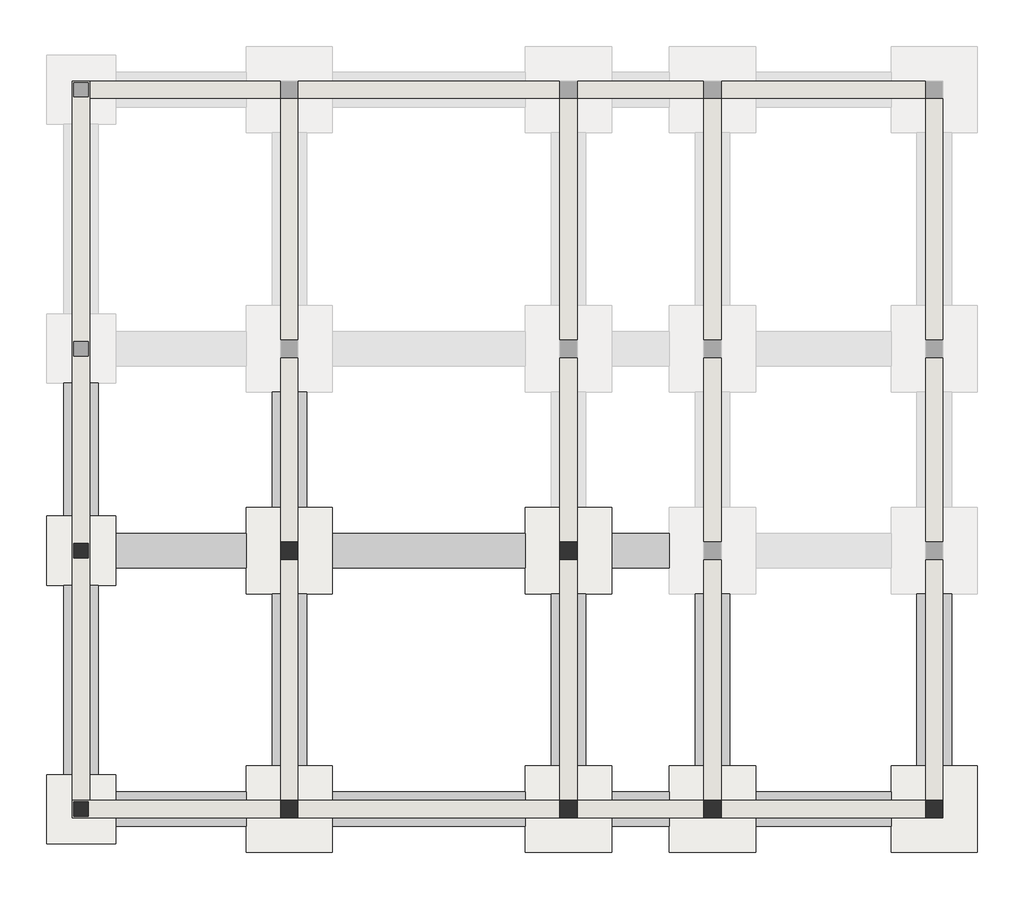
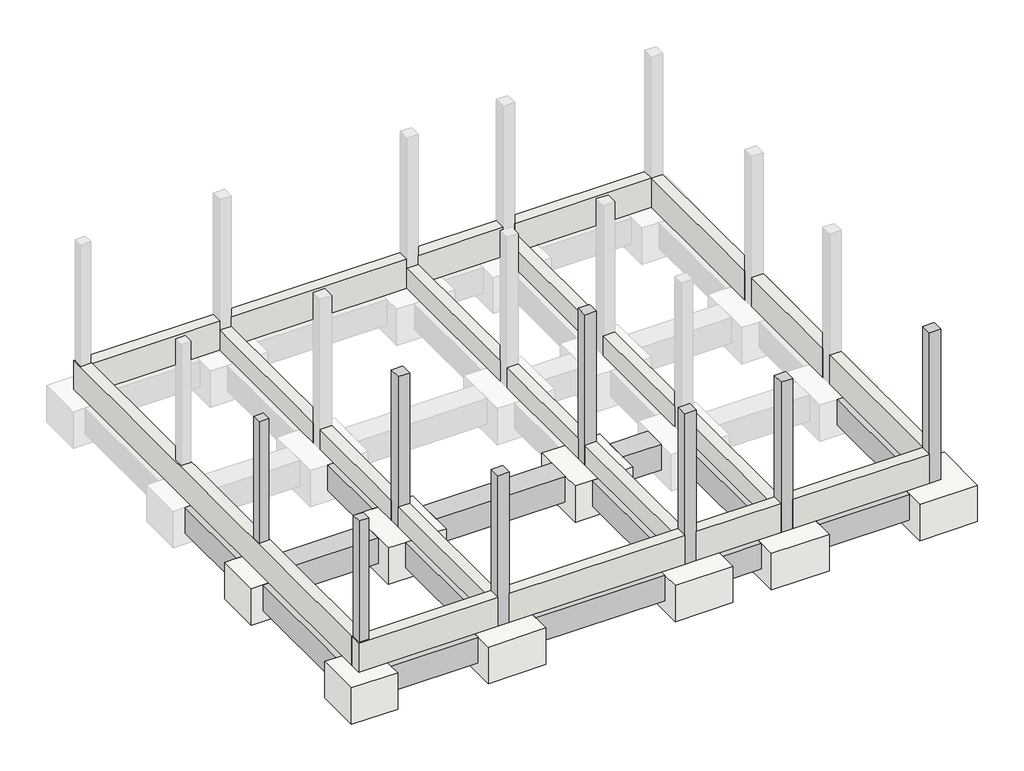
# One storey, part 1 of 2: 14 beams, 8 columns, 8 slabs, 7 walls.
"""IFC4 building model written with IfcOpenShell, lengths in millimetres."""

from ifc_helpers import new_model, si_unit, frame, origin, place, context, project, spatial, polyline, outline, extrude, faceted_brep, element, save

model = new_model("IFC4")

# Units and contexts
model_context = context("Model", 3, world=origin())
ifc_project = project(units=[si_unit("LENGTHUNIT", "METRE", prefix="MILLI")], contexts=[model_context])

# Site, building, storey
site = spatial("IfcSite", under=ifc_project)
building = spatial("IfcBuilding", under=site)
storey = spatial("IfcBuildingStorey", under=building, Name="00.ES.CIMENTACIÓN", Elevation=-680.0)

# Beams
placement = place(None, origin())
element("IfcBeam", 1, ObjectType="Hormigón-Viga rectangular : 600 x 700 mm", at=placement, inside=storey, context=model_context, shape_type="SweptSolid", body=[
    extrude(outline(polyline([(12315.0, 300.0), (12315.0, 900.0), (14665.0, 900.0), (14665.0, 300.0), (12315.0, 300.0)])), frame((0.0, 0.0, -1380.0), z_axis=(0.0, 0.0, 1.0), x_axis=(1.0, 0.0, 0.0)), (0.0, 0.0, 1.0), 700.0),
])
element("IfcBeam", 2, ObjectType="Hormigón-Viga rectangular : 600 x 700 mm", at=placement, inside=storey, context=model_context, shape_type="SweptSolid", body=[
    extrude(outline(polyline([(9815.0, 300.0), (9815.0, 900.0), (10815.0, 900.0), (10815.0, 300.0), (9815.0, 300.0)])), frame((0.0, 0.0, -1380.0), z_axis=(0.0, 0.0, 1.0), x_axis=(1.0, 0.0, 0.0)), (0.0, 0.0, 1.0), 700.0),
])
element("IfcBeam", 3, ObjectType="Hormigón-Viga rectangular : 600 x 700 mm", at=placement, inside=storey, context=model_context, shape_type="SweptSolid", body=[
    extrude(outline(polyline([(4965.0, 300.0), (4965.0, 900.0), (8315.0, 900.0), (8315.0, 300.0), (4965.0, 300.0)])), frame((0.0, 0.0, -1380.0), z_axis=(0.0, 0.0, 1.0), x_axis=(1.0, 0.0, 0.0)), (0.0, 0.0, 1.0), 700.0),
])
element("IfcBeam", 4, ObjectType="Hormigón-Viga rectangular : 600 x 700 mm", at=placement, inside=storey, context=model_context, shape_type="SweptSolid", body=[
    extrude(outline(polyline([(3465.0, 900.0), (3465.0, 300.0), (1200.0, 300.0), (1200.0, 900.0), (3465.0, 900.0)])), frame((0.0, 0.0, -1380.0), z_axis=(0.0, 0.0, 1.0), x_axis=(1.0, 0.0, 0.0)), (0.0, 0.0, 1.0), 700.0),
])
element("IfcBeam", 5, ObjectType="Hormigón-Viga rectangular : 600 x 700 mm", at=placement, inside=storey, context=model_context, shape_type="SweptSolid", body=[
    extrude(outline(polyline([(300.0, 4490.0610844), (900.0, 4490.0610844), (900.0, 1200.0), (300.0, 1200.0), (300.0, 4490.0610844)])), frame((0.0, 0.0, -1380.0), z_axis=(0.0, 0.0, 1.0), x_axis=(1.0, 0.0, 0.0)), (0.0, 0.0, 1.0), 700.0),
])
element("IfcBeam", 6, ObjectType="Hormigón-Viga rectangular : 600 x 700 mm", at=placement, inside=storey, context=model_context, shape_type="SweptSolid", body=[
    extrude(outline(polyline([(300.0, 8000.0), (900.0, 8000.0), (900.0, 5690.0610844), (300.0, 5690.0610844), (300.0, 8000.0)])), frame((0.0, 0.0, -1380.0), z_axis=(0.0, 0.0, 1.0), x_axis=(1.0, 0.0, 0.0)), (0.0, 0.0, 1.0), 700.0),
])
element("IfcBeam", 7, ObjectType="Hormigón-Viga rectangular : 600 x 700 mm", at=placement, inside=storey, context=model_context, shape_type="SweptSolid", body=[
    extrude(outline(polyline([(9815.0, 4790.0610844), (9815.0, 5390.0610844), (10815.0, 5390.0610844), (10815.0, 4790.0610844), (9815.0, 4790.0610844)])), frame((0.0, 0.0, -1380.0), z_axis=(0.0, 0.0, 1.0), x_axis=(1.0, 0.0, 0.0)), (0.0, 0.0, 1.0), 700.0),
])
element("IfcBeam", 8, ObjectType="Hormigón-Viga rectangular : 600 x 700 mm", at=placement, inside=storey, context=model_context, shape_type="SweptSolid", body=[
    extrude(outline(polyline([(4965.0, 4790.0610844), (4965.0, 5390.0610844), (8315.0, 5390.0610844), (8315.0, 4790.0610844), (4965.0, 4790.0610844)])), frame((0.0, 0.0, -1380.0), z_axis=(0.0, 0.0, 1.0), x_axis=(1.0, 0.0, 0.0)), (0.0, 0.0, 1.0), 700.0),
])
element("IfcBeam", 9, ObjectType="Hormigón-Viga rectangular : 600 x 700 mm", at=placement, inside=storey, context=model_context, shape_type="SweptSolid", body=[
    extrude(outline(polyline([(3465.0, 5390.0610844), (3465.0, 4790.0610844), (1200.0, 4790.0610844), (1200.0, 5390.0610844), (3465.0, 5390.0610844)])), frame((0.0, 0.0, -1380.0), z_axis=(0.0, 0.0, 1.0), x_axis=(1.0, 0.0, 0.0)), (0.0, 0.0, 1.0), 700.0),
])
element("IfcBeam", 10, ObjectType="Hormigón-Viga rectangular : 600 x 700 mm", at=placement, inside=storey, context=model_context, shape_type="SweptSolid", body=[
    extrude(outline(polyline([(3915.0, 4340.0610844), (4515.0, 4340.0610844), (4515.0, 1350.0), (3915.0, 1350.0), (3915.0, 4340.0610844)])), frame((0.0, 0.0, -1380.0), z_axis=(0.0, 0.0, 1.0), x_axis=(1.0, 0.0, 0.0)), (0.0, 0.0, 1.0), 700.0),
])
element("IfcBeam", 11, ObjectType="Hormigón-Viga rectangular : 600 x 700 mm", at=placement, inside=storey, context=model_context, shape_type="SweptSolid", body=[
    extrude(outline(polyline([(3915.0, 7850.0), (4515.0, 7850.0), (4515.0, 5840.0610844), (3915.0, 5840.0610844), (3915.0, 7850.0)])), frame((0.0, 0.0, -1380.0), z_axis=(0.0, 0.0, 1.0), x_axis=(1.0, 0.0, 0.0)), (0.0, 0.0, 1.0), 700.0),
])
element("IfcBeam", 12, ObjectType="Hormigón-Viga rectangular : 600 x 700 mm", at=placement, inside=storey, context=model_context, shape_type="SweptSolid", body=[
    extrude(outline(polyline([(8765.0, 4340.0610844), (9365.0, 4340.0610844), (9365.0, 1350.0), (8765.0, 1350.0), (8765.0, 4340.0610844)])), frame((0.0, 0.0, -1380.0), z_axis=(0.0, 0.0, 1.0), x_axis=(1.0, 0.0, 0.0)), (0.0, 0.0, 1.0), 700.0),
])
element("IfcBeam", 13, ObjectType="Hormigón-Viga rectangular : 600 x 700 mm", at=placement, inside=storey, context=model_context, shape_type="SweptSolid", body=[
    extrude(outline(polyline([(11265.0, 4340.0610844), (11865.0, 4340.0610844), (11865.0, 1350.0), (11265.0, 1350.0), (11265.0, 4340.0610844)])), frame((0.0, 0.0, -1380.0), z_axis=(0.0, 0.0, 1.0), x_axis=(1.0, 0.0, 0.0)), (0.0, 0.0, 1.0), 700.0),
])
element("IfcBeam", 14, ObjectType="Hormigón-Viga rectangular : 600 x 700 mm", at=placement, inside=storey, context=model_context, shape_type="SweptSolid", body=[
    extrude(outline(polyline([(15115.0, 4340.0610844), (15715.0, 4340.0610844), (15715.0, 1350.0), (15115.0, 1350.0), (15115.0, 4340.0610844)])), frame((0.0, 0.0, -1380.0), z_axis=(0.0, 0.0, 1.0), x_axis=(1.0, 0.0, 0.0)), (0.0, 0.0, 1.0), 700.0),
])

# Columns
element("IfcColumn", 15, ObjectType="Pilar rectangular hormigón : 250 x 250 mm", at=placement, inside=storey, context=model_context, shape_type="Brep", body=[
    faceted_brep([(725.0, 5215.0610844, 3450.0), (475.0, 5215.0610844, 3450.0), (475.0, 4965.0610844, 3450.0), (725.0, 4965.0610844, 3450.0), (725.0, 5215.0610844, -680.0), (725.0, 4965.0610844, -680.0), (475.0, 4965.0610844, -680.0), (475.0, 5215.0610844, -680.0), (725.0, 5215.0610844, 120.0), (475.0, 5215.0610844, 120.0), (475.0, 4965.0610844, 120.0), (725.0, 4965.0610844, 120.0)], [[[0, 1, 2, 3]], [[4, 5, 6, 7]], [[1, 0, 8, 4, 7, 9]], [[2, 1, 9, 7, 6, 10]], [[3, 2, 10, 6, 5, 11]], [[0, 3, 11, 5, 4, 8]]]),
])
element("IfcColumn", 16, ObjectType="Pilar rectangular hormigón : 250 x 250 mm", at=placement, inside=storey, context=model_context, shape_type="SweptSolid", body=[
    extrude(outline(polyline([(725.0, 725.0), (725.0, 475.0), (475.0, 475.0), (475.0, 725.0), (725.0, 725.0)])), frame((0.0, 0.0, -680.0), z_axis=(0.0, 0.0, 1.0), x_axis=(1.0, 0.0, 0.0)), (0.0, 0.0, 1.0), 4130.0),
])
element("IfcColumn", 17, ObjectType="Pilar rectangular hormigón : 300 x 300 mm", at=placement, inside=storey, context=model_context, shape_type="Brep", body=[
    faceted_brep([(4365.0, 5240.0610844, 3450.0), (4065.0, 5240.0610844, 3450.0), (4065.0, 4940.0610844, 3450.0), (4365.0, 4940.0610844, 3450.0), (4365.0, 5240.0610844, -680.0), (4365.0, 4940.0610844, -680.0), (4065.0, 4940.0610844, -680.0), (4065.0, 5240.0610844, -680.0), (4365.0, 5240.0610844, 3050.0), (4365.0, 5240.0610844, 120.0), (4365.0, 5240.0610844, -130.0), (4065.0, 5240.0610844, -130.0), (4065.0, 5240.0610844, 120.0), (4065.0, 5240.0610844, 3050.0), (4065.0, 4940.0610844, -130.0), (4065.0, 4940.0610844, 120.0), (4065.0, 4940.0610844, 3050.0), (4365.0, 4940.0610844, -130.0), (4365.0, 4940.0610844, 120.0), (4365.0, 4940.0610844, 3050.0)], [[[0, 1, 2, 3]], [[4, 5, 6, 7]], [[1, 0, 8, 9, 10, 4, 7, 11, 12, 13]], [[2, 1, 13, 12, 11, 7, 6, 14, 15, 16]], [[3, 2, 16, 15, 14, 6, 5, 17, 18, 19]], [[0, 3, 19, 18, 17, 5, 4, 10, 9, 8]]]),
])
element("IfcColumn", 18, ObjectType="Pilar rectangular hormigón : 300 x 300 mm", at=placement, inside=storey, context=model_context, shape_type="Brep", body=[
    faceted_brep([(9215.0, 5240.0610844, 3450.0), (8915.0, 5240.0610844, 3450.0), (8915.0, 4940.0610844, 3450.0), (9215.0, 4940.0610844, 3450.0), (9215.0, 5240.0610844, -680.0), (9215.0, 4940.0610844, -680.0), (8915.0, 4940.0610844, -680.0), (8915.0, 5240.0610844, -680.0), (9215.0, 5240.0610844, 3050.0), (9215.0, 5240.0610844, 120.0), (9215.0, 5240.0610844, -130.0), (8915.0, 5240.0610844, -130.0), (8915.0, 4940.0610844, -130.0), (9215.0, 4940.0610844, -130.0), (9215.0, 4940.0610844, 120.0), (9215.0, 4940.0610844, 3050.0)], [[[0, 1, 2, 3]], [[4, 5, 6, 7]], [[1, 0, 8, 9, 10, 4, 7, 11]], [[2, 1, 11, 7, 6, 12]], [[3, 2, 12, 6, 5, 13, 14, 15]], [[0, 3, 15, 14, 13, 5, 4, 10, 9, 8]]]),
])
element("IfcColumn", 19, ObjectType="Pilar rectangular hormigón : 300 x 300 mm", at=placement, inside=storey, context=model_context, shape_type="Brep", body=[
    faceted_brep([(4365.0, 750.0, 3450.0), (4065.0, 750.0, 3450.0), (4065.0, 450.0, 3450.0), (4365.0, 450.0, 3450.0), (4365.0, 750.0, -680.0), (4365.0, 450.0, -680.0), (4065.0, 450.0, -680.0), (4065.0, 750.0, -680.0), (4365.0, 750.0, 120.0), (4065.0, 750.0, 120.0), (4065.0, 450.0, 120.0), (4365.0, 450.0, 120.0)], [[[0, 1, 2, 3]], [[4, 5, 6, 7]], [[1, 0, 8, 4, 7, 9]], [[2, 1, 9, 7, 6, 10]], [[3, 2, 10, 6, 5, 11]], [[0, 3, 11, 5, 4, 8]]]),
])
element("IfcColumn", 20, ObjectType="Pilar rectangular hormigón : 300 x 300 mm", at=placement, inside=storey, context=model_context, shape_type="Brep", body=[
    faceted_brep([(9215.0, 750.0, 3450.0), (8915.0, 750.0, 3450.0), (8915.0, 450.0, 3450.0), (9215.0, 450.0, 3450.0), (9215.0, 750.0, -680.0), (9215.0, 450.0, -680.0), (8915.0, 450.0, -680.0), (8915.0, 750.0, -680.0), (9215.0, 750.0, 120.0), (8915.0, 750.0, 120.0), (8915.0, 450.0, 120.0), (9215.0, 450.0, 120.0)], [[[0, 1, 2, 3]], [[4, 5, 6, 7]], [[1, 0, 8, 4, 7, 9]], [[2, 1, 9, 7, 6, 10]], [[3, 2, 10, 6, 5, 11]], [[0, 3, 11, 5, 4, 8]]]),
])
element("IfcColumn", 21, ObjectType="Pilar rectangular hormigón : 300 x 300 mm", at=placement, inside=storey, context=model_context, shape_type="Brep", body=[
    faceted_brep([(11715.0, 750.0, 3450.0), (11415.0, 750.0, 3450.0), (11415.0, 450.0, 3450.0), (11715.0, 450.0, 3450.0), (11715.0, 750.0, -680.0), (11715.0, 450.0, -680.0), (11415.0, 450.0, -680.0), (11415.0, 750.0, -680.0), (11715.0, 750.0, 3200.0), (11715.0, 750.0, 120.0), (11415.0, 750.0, 120.0), (11415.0, 450.0, 120.0), (11715.0, 450.0, 120.0)], [[[0, 1, 2, 3]], [[4, 5, 6, 7]], [[1, 0, 8, 9, 4, 7, 10]], [[2, 1, 10, 7, 6, 11]], [[3, 2, 11, 6, 5, 12]], [[0, 3, 12, 5, 4, 9, 8]]]),
])
element("IfcColumn", 22, ObjectType="Pilar rectangular hormigón : 300 x 300 mm", at=placement, inside=storey, context=model_context, shape_type="Brep", body=[
    faceted_brep([(15565.0, 750.0, 3450.0), (15265.0, 750.0, 3450.0), (15265.0, 450.0, 3450.0), (15565.0, 450.0, 3450.0), (15565.0, 750.0, -680.0), (15565.0, 450.0, -680.0), (15265.0, 450.0, -680.0), (15265.0, 750.0, -680.0), (15565.0, 750.0, 120.0), (15265.0, 750.0, 120.0), (15265.0, 750.0, 3200.0), (15265.0, 450.0, 120.0), (15565.0, 450.0, 120.0)], [[[0, 1, 2, 3]], [[4, 5, 6, 7]], [[1, 0, 8, 4, 7, 9, 10]], [[2, 1, 10, 9, 7, 6, 11]], [[3, 2, 11, 6, 5, 12]], [[0, 3, 12, 5, 4, 8]]]),
])

# Slabs
element("IfcSlab", 23, ObjectType="Zapata-Rectangular : 1200 x 1200 x 1000 mm", at=placement, inside=storey, context=model_context, shape_type="Brep", body=[
    faceted_brep([(1200.0, 5690.0610844, -680.0), (900.0, 5690.0610844, -680.0), (300.0, 5690.0610844, -680.0), (0.0, 5690.0610844, -680.0), (0.0, 4490.0610844, -680.0), (300.0, 4490.0610844, -680.0), (900.0, 4490.0610844, -680.0), (1200.0, 4490.0610844, -680.0), (1200.0, 4790.0610844, -680.0), (1200.0, 5390.0610844, -680.0), (1200.0, 5690.0610844, -1680.0), (1200.0, 4490.0610844, -1680.0), (0.0, 4490.0610844, -1680.0), (0.0, 5690.0610844, -1680.0)], [[[0, 1, 2, 3, 4, 5, 6, 7, 8, 9]], [[10, 11, 12, 13]], [[3, 2, 1, 0, 10, 13]], [[4, 3, 13, 12]], [[7, 6, 5, 4, 12, 11]], [[0, 9, 8, 7, 11, 10]]]),
])
element("IfcSlab", 24, ObjectType="Zapata-Rectangular : 1200 x 1200 x 1000 mm", at=placement, inside=storey, context=model_context, shape_type="Brep", body=[
    faceted_brep([(1200.0, 1200.0, -680.0), (900.0, 1200.0, -680.0), (300.0, 1200.0, -680.0), (0.0, 1200.0, -680.0), (0.0, 0.0, -680.0), (1200.0, 0.0, -680.0), (1200.0, 300.0, -680.0), (1200.0, 900.0, -680.0), (1200.0, 1200.0, -1680.0), (1200.0, 0.0, -1680.0), (0.0, 0.0, -1680.0), (0.0, 1200.0, -1680.0)], [[[0, 1, 2, 3, 4, 5, 6, 7]], [[8, 9, 10, 11]], [[3, 2, 1, 0, 8, 11]], [[4, 3, 11, 10]], [[5, 4, 10, 9]], [[0, 7, 6, 5, 9, 8]]]),
])
element("IfcSlab", 25, ObjectType="Zapata-Rectangular : 1500 x 1500 x 1000 mm", at=placement, inside=storey, context=model_context, shape_type="Brep", body=[
    faceted_brep([(4965.0, 5840.0610844, -680.0), (4515.0, 5840.0610844, -680.0), (3915.0, 5840.0610844, -680.0), (3465.0, 5840.0610844, -680.0), (3465.0, 5390.0610844, -680.0), (3465.0, 4790.0610844, -680.0), (3465.0, 4340.0610844, -680.0), (3915.0, 4340.0610844, -680.0), (4515.0, 4340.0610844, -680.0), (4965.0, 4340.0610844, -680.0), (4965.0, 4790.0610844, -680.0), (4965.0, 5390.0610844, -680.0), (4965.0, 5840.0610844, -1680.0), (4965.0, 4340.0610844, -1680.0), (3465.0, 4340.0610844, -1680.0), (3465.0, 5840.0610844, -1680.0)], [[[0, 1, 2, 3, 4, 5, 6, 7, 8, 9, 10, 11]], [[12, 13, 14, 15]], [[3, 2, 1, 0, 12, 15]], [[6, 5, 4, 3, 15, 14]], [[9, 8, 7, 6, 14, 13]], [[0, 11, 10, 9, 13, 12]]]),
])
element("IfcSlab", 26, ObjectType="Zapata-Rectangular : 1500 x 1500 x 1000 mm", at=placement, inside=storey, context=model_context, shape_type="Brep", body=[
    faceted_brep([(9815.0, 5840.0610844, -680.0), (9365.0, 5840.0610844, -680.0), (8765.0, 5840.0610844, -680.0), (8315.0, 5840.0610844, -680.0), (8315.0, 5390.0610844, -680.0), (8315.0, 4790.0610844, -680.0), (8315.0, 4340.0610844, -680.0), (8765.0, 4340.0610844, -680.0), (9365.0, 4340.0610844, -680.0), (9815.0, 4340.0610844, -680.0), (9815.0, 4790.0610844, -680.0), (9815.0, 5390.0610844, -680.0), (9815.0, 5840.0610844, -1680.0), (9815.0, 4340.0610844, -1680.0), (8315.0, 4340.0610844, -1680.0), (8315.0, 5840.0610844, -1680.0)], [[[0, 1, 2, 3, 4, 5, 6, 7, 8, 9, 10, 11]], [[12, 13, 14, 15]], [[3, 2, 1, 0, 12, 15]], [[6, 5, 4, 3, 15, 14]], [[9, 8, 7, 6, 14, 13]], [[0, 11, 10, 9, 13, 12]]]),
])
element("IfcSlab", 27, ObjectType="Zapata-Rectangular : 1500 x 1500 x 1000 mm", at=placement, inside=storey, context=model_context, shape_type="Brep", body=[
    faceted_brep([(4965.0, 1350.0, -680.0), (4515.0, 1350.0, -680.0), (3915.0, 1350.0, -680.0), (3465.0, 1350.0, -680.0), (3465.0, 900.0, -680.0), (3465.0, 300.0, -680.0), (3465.0, -150.0, -680.0), (4965.0, -150.0, -680.0), (4965.0, 300.0, -680.0), (4965.0, 900.0, -680.0), (4965.0, 1350.0, -1680.0), (4965.0, -150.0, -1680.0), (3465.0, -150.0, -1680.0), (3465.0, 1350.0, -1680.0)], [[[0, 1, 2, 3, 4, 5, 6, 7, 8, 9]], [[10, 11, 12, 13]], [[3, 2, 1, 0, 10, 13]], [[6, 5, 4, 3, 13, 12]], [[7, 6, 12, 11]], [[0, 9, 8, 7, 11, 10]]]),
])
element("IfcSlab", 28, ObjectType="Zapata-Rectangular : 1500 x 1500 x 1000 mm", at=placement, inside=storey, context=model_context, shape_type="Brep", body=[
    faceted_brep([(9815.0, 1350.0, -680.0), (9365.0, 1350.0, -680.0), (8765.0, 1350.0, -680.0), (8315.0, 1350.0, -680.0), (8315.0, 900.0, -680.0), (8315.0, 300.0, -680.0), (8315.0, -150.0, -680.0), (9815.0, -150.0, -680.0), (9815.0, 300.0, -680.0), (9815.0, 900.0, -680.0), (9815.0, 1350.0, -1680.0), (9815.0, -150.0, -1680.0), (8315.0, -150.0, -1680.0), (8315.0, 1350.0, -1680.0)], [[[0, 1, 2, 3, 4, 5, 6, 7, 8, 9]], [[10, 11, 12, 13]], [[3, 2, 1, 0, 10, 13]], [[6, 5, 4, 3, 13, 12]], [[7, 6, 12, 11]], [[0, 9, 8, 7, 11, 10]]]),
])
element("IfcSlab", 29, ObjectType="Zapata-Rectangular : 1500 x 1500 x 1000 mm", at=placement, inside=storey, context=model_context, shape_type="Brep", body=[
    faceted_brep([(12315.0, 1350.0, -680.0), (11865.0, 1350.0, -680.0), (11265.0, 1350.0, -680.0), (10815.0, 1350.0, -680.0), (10815.0, 900.0, -680.0), (10815.0, 300.0, -680.0), (10815.0, -150.0, -680.0), (12315.0, -150.0, -680.0), (12315.0, 300.0, -680.0), (12315.0, 900.0, -680.0), (12315.0, 1350.0, -1680.0), (12315.0, -150.0, -1680.0), (10815.0, -150.0, -1680.0), (10815.0, 1350.0, -1680.0)], [[[0, 1, 2, 3, 4, 5, 6, 7, 8, 9]], [[10, 11, 12, 13]], [[3, 2, 1, 0, 10, 13]], [[6, 5, 4, 3, 13, 12]], [[7, 6, 12, 11]], [[0, 9, 8, 7, 11, 10]]]),
])
element("IfcSlab", 30, ObjectType="Zapata-Rectangular : 1500 x 1500 x 1000 mm", at=placement, inside=storey, context=model_context, shape_type="Brep", body=[
    faceted_brep([(16165.0, 1350.0, -680.0), (15715.0, 1350.0, -680.0), (15115.0, 1350.0, -680.0), (14665.0, 1350.0, -680.0), (14665.0, 900.0, -680.0), (14665.0, 300.0, -680.0), (14665.0, -150.0, -680.0), (16165.0, -150.0, -680.0), (16165.0, 1350.0, -1680.0), (16165.0, -150.0, -1680.0), (14665.0, -150.0, -1680.0), (14665.0, 1350.0, -1680.0)], [[[0, 1, 2, 3, 4, 5, 6, 7]], [[8, 9, 10, 11]], [[3, 2, 1, 0, 8, 11]], [[6, 5, 4, 3, 11, 10]], [[7, 6, 10, 9]], [[0, 7, 9, 8]]]),
])

# Walls
element("IfcWall", 31, ObjectType="Hormigón - 30 cm", at=placement, inside=storey, context=model_context, shape_type="Brep", body=[
    faceted_brep([(450.0, 750.0, -680.0), (450.0, 750.0, 120.0), (750.0, 750.0, 120.0), (4065.0, 750.0, 120.0), (4065.0, 750.0, -680.0), (750.0, 750.0, -680.0), (450.0, 450.0, 120.0), (450.0, 450.0, -680.0), (4065.0, 450.0, -680.0), (4065.0, 450.0, 120.0)], [[[0, 1, 2, 3, 4, 5]], [[6, 7, 8, 9]], [[7, 0, 5, 4, 8]], [[1, 6, 9, 3, 2]], [[1, 0, 7, 6]], [[4, 3, 9, 8]]]),
    faceted_brep([(4365.0, 750.0, -680.0), (4365.0, 750.0, 120.0), (8915.0, 750.0, 120.0), (8915.0, 750.0, -680.0), (4365.0, 450.0, 120.0), (4365.0, 450.0, -680.0), (8915.0, 450.0, -680.0), (8915.0, 450.0, 120.0)], [[[0, 1, 2, 3]], [[4, 5, 6, 7]], [[5, 0, 3, 6]], [[1, 4, 7, 2]], [[1, 0, 5, 4]], [[3, 2, 7, 6]]]),
    faceted_brep([(9215.0, 750.0, -680.0), (9215.0, 750.0, 120.0), (11415.0, 750.0, 120.0), (11415.0, 750.0, -680.0), (9215.0, 450.0, 120.0), (9215.0, 450.0, -680.0), (11415.0, 450.0, -680.0), (11415.0, 450.0, 120.0)], [[[0, 1, 2, 3]], [[4, 5, 6, 7]], [[5, 0, 3, 6]], [[1, 4, 7, 2]], [[1, 0, 5, 4]], [[3, 2, 7, 6]]]),
    faceted_brep([(11715.0, 750.0, -680.0), (11715.0, 750.0, 120.0), (15265.0, 750.0, 120.0), (15265.0, 750.0, -680.0), (11715.0, 450.0, 120.0), (11715.0, 450.0, -680.0), (15265.0, 450.0, -680.0), (15265.0, 450.0, 120.0)], [[[0, 1, 2, 3]], [[4, 5, 6, 7]], [[5, 0, 3, 6]], [[1, 4, 7, 2]], [[1, 0, 5, 4]], [[3, 2, 7, 6]]]),
])
element("IfcWall", 32, ObjectType="Hormigón - 30 cm", at=placement, inside=storey, context=model_context, shape_type="Brep", body=[
    faceted_brep([(750.0, 750.0, -680.0), (750.0, 12950.0, -680.0), (750.0, 13250.0, -680.0), (750.0, 13250.0, 120.0), (750.0, 12950.0, 120.0), (750.0, 750.0, 120.0), (450.0, 13250.0, -680.0), (450.0, 750.0, -680.0), (450.0, 750.0, 120.0), (450.0, 13250.0, 120.0), (725.0, 13225.0, -680.0), (475.0, 13225.0, -680.0), (475.0, 12975.0, -680.0), (725.0, 12975.0, -680.0), (725.0, 8725.0, -680.0), (475.0, 8725.0, -680.0), (475.0, 8475.0, -680.0), (725.0, 8475.0, -680.0), (725.0, 5215.0610844, -680.0), (475.0, 5215.0610844, -680.0), (475.0, 4965.0610844, -680.0), (725.0, 4965.0610844, -680.0), (475.0, 13225.0, 120.0), (725.0, 13225.0, 120.0), (725.0, 12975.0, 120.0), (475.0, 12975.0, 120.0), (475.0, 8725.0, 120.0), (725.0, 8725.0, 120.0), (725.0, 8475.0, 120.0), (475.0, 8475.0, 120.0), (475.0, 5215.0610844, 120.0), (725.0, 5215.0610844, 120.0), (725.0, 4965.0610844, 120.0), (475.0, 4965.0610844, 120.0)], [[[0, 1, 2, 3, 4, 5]], [[6, 7, 8, 9]], [[2, 1, 0, 7, 6], [10, 11, 12, 13], [14, 15, 16, 17], [18, 19, 20, 21]], [[5, 4, 3, 9, 8], [22, 23, 24, 25], [26, 27, 28, 29], [30, 31, 32, 33]], [[0, 5, 8, 7]], [[3, 2, 6, 9]], [[10, 23, 22, 11]], [[11, 22, 25, 12]], [[12, 25, 24, 13]], [[23, 10, 13, 24]], [[14, 27, 26, 15]], [[15, 26, 29, 16]], [[16, 29, 28, 17]], [[27, 14, 17, 28]], [[18, 31, 30, 19]], [[19, 30, 33, 20]], [[20, 33, 32, 21]], [[31, 18, 21, 32]]]),
])
element("IfcWall", 33, ObjectType="Hormigón - 30 cm", at=placement, inside=storey, context=model_context, shape_type="SweptSolid", body=[
    extrude(outline(polyline([(750.0, 12950.0), (750.0, 13250.0), (4065.0, 13250.0), (4065.0, 12950.0), (750.0, 12950.0)])), frame((0.0, 0.0, -680.0), z_axis=(0.0, 0.0, 1.0), x_axis=(1.0, 0.0, 0.0)), (0.0, 0.0, 1.0), 800.0),
    extrude(outline(polyline([(11415.0, 13250.0), (11415.0, 12950.0), (9215.0, 12950.0), (9215.0, 13250.0), (11415.0, 13250.0)])), frame((0.0, 0.0, -680.0), z_axis=(0.0, 0.0, 1.0), x_axis=(1.0, 0.0, 0.0)), (0.0, 0.0, 1.0), 800.0),
    extrude(outline(polyline([(11715.0, 12950.0), (11715.0, 13250.0), (15265.0, 13250.0), (15265.0, 12950.0), (11715.0, 12950.0)])), frame((0.0, 0.0, -680.0), z_axis=(0.0, 0.0, 1.0), x_axis=(1.0, 0.0, 0.0)), (0.0, 0.0, 1.0), 800.0),
    extrude(outline(polyline([(8915.0, 13250.0), (8915.0, 12950.0), (4365.0, 12950.0), (4365.0, 13250.0), (8915.0, 13250.0)])), frame((0.0, 0.0, -680.0), z_axis=(0.0, 0.0, 1.0), x_axis=(1.0, 0.0, 0.0)), (0.0, 0.0, 1.0), 800.0),
])
element("IfcWall", 34, ObjectType="Hormigón - 30 cm", at=placement, inside=storey, context=model_context, shape_type="SweptSolid", body=[
    extrude(outline(polyline([(15565.0, 750.0), (15265.0, 750.0), (15265.0, 4940.0610844), (15565.0, 4940.0610844), (15565.0, 750.0)])), frame((0.0, 0.0, -680.0), z_axis=(0.0, 0.0, 1.0), x_axis=(1.0, 0.0, 0.0)), (0.0, 0.0, 1.0), 800.0),
    extrude(outline(polyline([(15565.0, 5240.0610844), (15265.0, 5240.0610844), (15265.0, 8450.0), (15565.0, 8450.0), (15565.0, 5240.0610844)])), frame((0.0, 0.0, -680.0), z_axis=(0.0, 0.0, 1.0), x_axis=(1.0, 0.0, 0.0)), (0.0, 0.0, 1.0), 800.0),
    extrude(outline(polyline([(15265.0, 12950.0), (15565.0, 12950.0), (15565.0, 8750.0), (15265.0, 8750.0), (15265.0, 12950.0)])), frame((0.0, 0.0, -680.0), z_axis=(0.0, 0.0, 1.0), x_axis=(1.0, 0.0, 0.0)), (0.0, 0.0, 1.0), 800.0),
])
element("IfcWall", 35, ObjectType="Hormigón - 30 cm", at=placement, inside=storey, context=model_context, shape_type="SweptSolid", body=[
    extrude(outline(polyline([(11415.0, 12950.0), (11715.0, 12950.0), (11715.0, 8750.0), (11415.0, 8750.0), (11415.0, 12950.0)])), frame((0.0, 0.0, -680.0), z_axis=(0.0, 0.0, 1.0), x_axis=(1.0, 0.0, 0.0)), (0.0, 0.0, 1.0), 550.0),
    extrude(outline(polyline([(11415.0, 8450.0), (11715.0, 8450.0), (11715.0, 5240.0610844), (11415.0, 5240.0610844), (11415.0, 8450.0)])), frame((0.0, 0.0, -680.0), z_axis=(0.0, 0.0, 1.0), x_axis=(1.0, 0.0, 0.0)), (0.0, 0.0, 1.0), 550.0),
    extrude(outline(polyline([(11715.0, 750.0), (11415.0, 750.0), (11415.0, 4940.0610844), (11715.0, 4940.0610844), (11715.0, 750.0)])), frame((0.0, 0.0, -680.0), z_axis=(0.0, 0.0, 1.0), x_axis=(1.0, 0.0, 0.0)), (0.0, 0.0, 1.0), 550.0),
])
element("IfcWall", 36, ObjectType="Hormigón - 30 cm", at=placement, inside=storey, context=model_context, shape_type="SweptSolid", body=[
    extrude(outline(polyline([(8915.0, 12950.0), (9215.0, 12950.0), (9215.0, 8750.0), (8915.0, 8750.0), (8915.0, 12950.0)])), frame((0.0, 0.0, -680.0), z_axis=(0.0, 0.0, 1.0), x_axis=(1.0, 0.0, 0.0)), (0.0, 0.0, 1.0), 550.0),
    extrude(outline(polyline([(8915.0, 8450.0), (9215.0, 8450.0), (9215.0, 5240.0610844), (8915.0, 5240.0610844), (8915.0, 8450.0)])), frame((0.0, 0.0, -680.0), z_axis=(0.0, 0.0, 1.0), x_axis=(1.0, 0.0, 0.0)), (0.0, 0.0, 1.0), 550.0),
    extrude(outline(polyline([(9215.0, 750.0), (8915.0, 750.0), (8915.0, 4940.0610844), (9215.0, 4940.0610844), (9215.0, 750.0)])), frame((0.0, 0.0, -680.0), z_axis=(0.0, 0.0, 1.0), x_axis=(1.0, 0.0, 0.0)), (0.0, 0.0, 1.0), 550.0),
])
element("IfcWall", 37, ObjectType="Hormigón - 30 cm", at=placement, inside=storey, context=model_context, shape_type="SweptSolid", body=[
    extrude(outline(polyline([(4065.0, 12950.0), (4365.0, 12950.0), (4365.0, 8750.0), (4065.0, 8750.0), (4065.0, 12950.0)])), frame((0.0, 0.0, -680.0), z_axis=(0.0, 0.0, 1.0), x_axis=(1.0, 0.0, 0.0)), (0.0, 0.0, 1.0), 550.0),
    extrude(outline(polyline([(4365.0, 750.0), (4065.0, 750.0), (4065.0, 4940.0610844), (4365.0, 4940.0610844), (4365.0, 750.0)])), frame((0.0, 0.0, -680.0), z_axis=(0.0, 0.0, 1.0), x_axis=(1.0, 0.0, 0.0)), (0.0, 0.0, 1.0), 550.0),
    extrude(outline(polyline([(4065.0, 8450.0), (4365.0, 8450.0), (4365.0, 5240.0610844), (4065.0, 5240.0610844), (4065.0, 8450.0)])), frame((0.0, 0.0, -680.0), z_axis=(0.0, 0.0, 1.0), x_axis=(1.0, 0.0, 0.0)), (0.0, 0.0, 1.0), 550.0),
])

save(model, "model.ifc")
